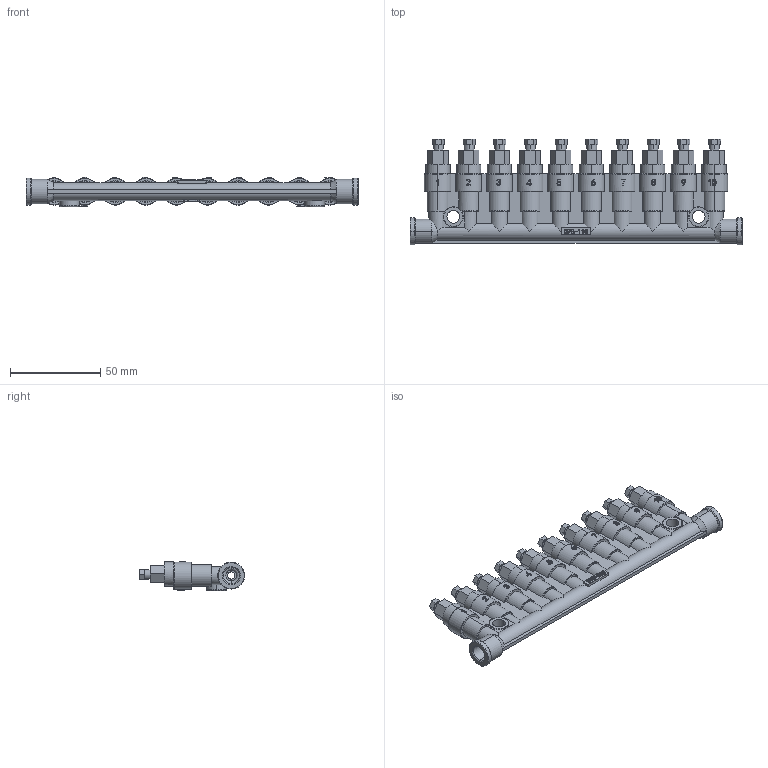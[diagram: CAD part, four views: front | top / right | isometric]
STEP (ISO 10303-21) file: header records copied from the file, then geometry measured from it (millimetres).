
FILE_DESCRIPTION (( 'STEP AP203' ), '1' );
FILE_NAME ('DPB110.SLDPRT.STEP', '2020-04-17T08:58:32', ( '个人用户' ), ( '微软中国' ), 'SwSTEP 2.0', 'SolidWorks 2018', '' );
FILE_SCHEMA (( 'CONFIG_CONTROL_DESIGN' ));
Length unit declared in the file: millimetre
Products named in the file (1): DPB110.SLDPRT
Bounding box: 184 x 58.5 x 16.5 mm (x, y, z)
Volume: 56806.6 mm3; surface area: 37699.9 mm2
Topology: 12 solids, 12 shells, 973 faces, 2470 edges, 1600 vertices
Faces by surface type: plane 442, cylinder 288, torus 110, bspline 69, cone 64
Entity records: 36419 total; most frequent: CARTESIAN_POINT 13086, ORIENTED_EDGE 4940, DIRECTION 4723, EDGE_CURVE 2470, AXIS2_PLACEMENT_3D 1716, VERTEX_POINT 1600, VECTOR 1291, LINE 1291
